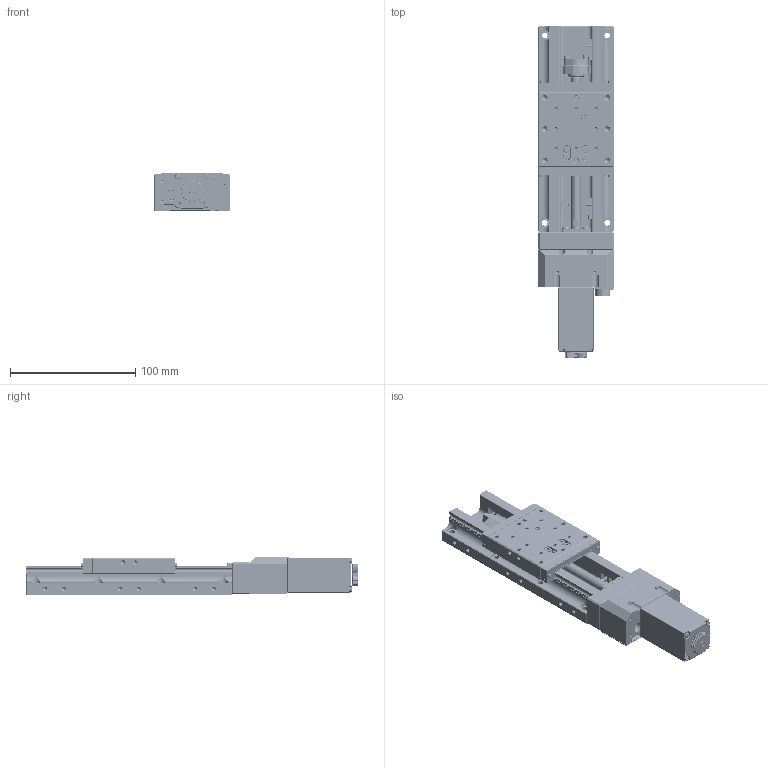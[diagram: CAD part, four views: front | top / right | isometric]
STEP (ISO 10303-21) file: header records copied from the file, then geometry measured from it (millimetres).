
FILE_DESCRIPTION (( 'STEP AP214' ), '1' );
FILE_NAME ('TXH6075B-L2-M28.STEP', '2025-01-03T08:58:39', ( '' ), ( '' ), 'SwSTEP 2.0', 'SolidWorks 2020', '' );
FILE_SCHEMA (( 'AUTOMOTIVE_DESIGN' ));
Length unit declared in the file: millimetre
Products named in the file (1): TXH6075B-L2-M28
Bounding box: 60 x 265.5 x 30.5 mm (x, y, z)
Volume: 251172 mm3; surface area: 137819 mm2
Topology: 208 solids, 227 shells, 4438 faces, 11289 edges, 7089 vertices
Faces by surface type: plane 1900, cylinder 1199, cone 722, torus 266, sphere 262, bspline 89
Entity records: 203499 total; most frequent: CARTESIAN_POINT 47753, DIRECTION 22094, ORIENTED_EDGE 21120, EDGE_CURVE 10560, AXIS2_PLACEMENT_3D 8195, VERTEX_POINT 6746, VECTOR 5704, LINE 5704
